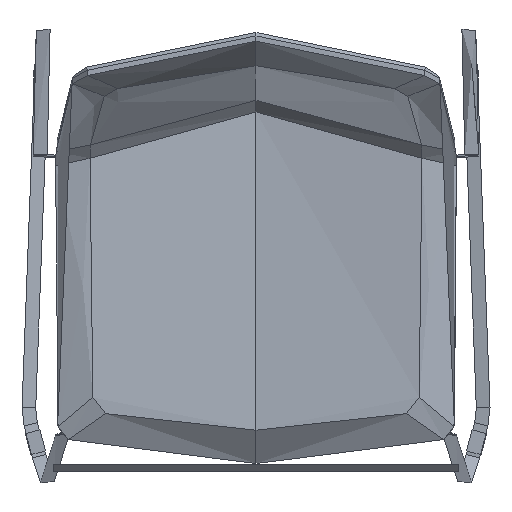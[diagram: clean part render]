
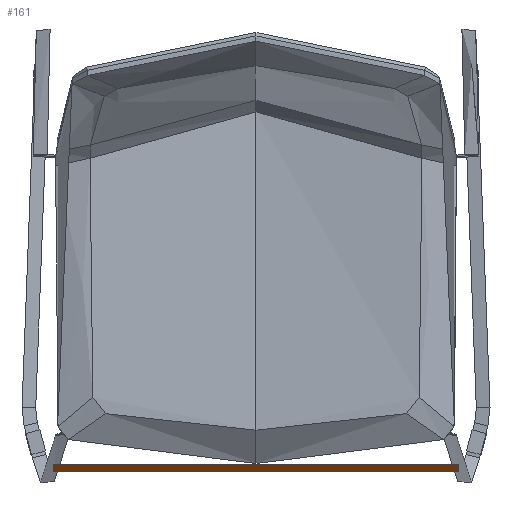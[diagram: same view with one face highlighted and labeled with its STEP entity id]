
A CAD part, top view. The second image highlights one B-rep face of the part: STEP entity #161.
In plain terms, the highlighted free-form (B-spline) face has degree [2, 1] with [5, 2] control points.
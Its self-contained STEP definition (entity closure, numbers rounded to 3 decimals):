
#161=ADVANCED_FACE('',(#317),#2203,.T.);
#317=FACE_OUTER_BOUND('',#473,.T.);
#473=EDGE_LOOP('',(#945,#946,#947,#948,#949,#950));
#945=ORIENTED_EDGE('',*,*,#1426,.T.);
#946=ORIENTED_EDGE('',*,*,#1428,.T.);
#947=ORIENTED_EDGE('',*,*,#1423,.T.);
#948=ORIENTED_EDGE('',*,*,#1425,.F.);
#949=ORIENTED_EDGE('',*,*,#1422,.T.);
#950=ORIENTED_EDGE('',*,*,#1421,.T.);
#1421=EDGE_CURVE('',#2032,#2036,#1770,.T.);
#1422=EDGE_CURVE('',#2033,#2032,#1771,.T.);
#1423=EDGE_CURVE('',#2034,#2035,#1772,.T.);
#1425=EDGE_CURVE('',#2033,#2035,#1774,.T.);
#1426=EDGE_CURVE('',#2036,#2037,#1775,.T.);
#1428=EDGE_CURVE('',#2037,#2034,#1777,.T.);
#1770=(
BOUNDED_CURVE()
B_SPLINE_CURVE(2,(#15353,#15354,#15355),.UNSPECIFIED.,.F.,.F.)
B_SPLINE_CURVE_WITH_KNOTS((3,3),(0.,12.566),.UNSPECIFIED.)
CURVE()
GEOMETRIC_REPRESENTATION_ITEM()
RATIONAL_B_SPLINE_CURVE((1.,0.707,1.))
REPRESENTATION_ITEM('')
);
#1771=(
BOUNDED_CURVE()
B_SPLINE_CURVE(2,(#15356,#15357,#15358),.UNSPECIFIED.,.F.,.F.)
B_SPLINE_CURVE_WITH_KNOTS((3,3),(38.38,50.265),
 .UNSPECIFIED.)
CURVE()
GEOMETRIC_REPRESENTATION_ITEM()
RATIONAL_B_SPLINE_CURVE((1.,0.734,1.))
REPRESENTATION_ITEM('')
);
#1772=(
BOUNDED_CURVE()
B_SPLINE_CURVE(2,(#15359,#15360,#15361),.UNSPECIFIED.,.F.,.F.)
B_SPLINE_CURVE_WITH_KNOTS((3,3),(-50.265,-38.38),
 .UNSPECIFIED.)
CURVE()
GEOMETRIC_REPRESENTATION_ITEM()
RATIONAL_B_SPLINE_CURVE((1.,0.734,1.))
REPRESENTATION_ITEM('')
);
#1774=(
BOUNDED_CURVE()
B_SPLINE_CURVE(1,(#15369,#15370),.UNSPECIFIED.,.F.,.F.)
B_SPLINE_CURVE_WITH_KNOTS((2,2),(0.,462.695),
 .UNSPECIFIED.)
CURVE()
GEOMETRIC_REPRESENTATION_ITEM()
RATIONAL_B_SPLINE_CURVE((1.,1.))
REPRESENTATION_ITEM('')
);
#1775=(
BOUNDED_CURVE()
B_SPLINE_CURVE(1,(#15371,#15372),.UNSPECIFIED.,.F.,.F.)
B_SPLINE_CURVE_WITH_KNOTS((2,2),(0.,462.695),
 .UNSPECIFIED.)
CURVE()
GEOMETRIC_REPRESENTATION_ITEM()
RATIONAL_B_SPLINE_CURVE((1.,1.))
REPRESENTATION_ITEM('')
);
#1777=(
BOUNDED_CURVE()
B_SPLINE_CURVE(2,(#15380,#15381,#15382),.UNSPECIFIED.,.F.,.F.)
B_SPLINE_CURVE_WITH_KNOTS((3,3),(-12.566,0.),.UNSPECIFIED.)
CURVE()
GEOMETRIC_REPRESENTATION_ITEM()
RATIONAL_B_SPLINE_CURVE((1.,0.707,1.))
REPRESENTATION_ITEM('')
);
#2032=VERTEX_POINT('',#15347);
#2033=VERTEX_POINT('',#15348);
#2034=VERTEX_POINT('',#15349);
#2035=VERTEX_POINT('',#15350);
#2036=VERTEX_POINT('',#15351);
#2037=VERTEX_POINT('',#15352);
#2203=(
BOUNDED_SURFACE()
B_SPLINE_SURFACE(2,1,((#15323,#15324),(#15325,#15326),(#15327,#15328),(#15329,
#15330),(#15331,#15332)),.UNSPECIFIED.,.F.,.F.,.F.)
B_SPLINE_SURFACE_WITH_KNOTS((3,2,3),(2,2),(0.,11.886,24.452),
(0.,462.695),.UNSPECIFIED.)
GEOMETRIC_REPRESENTATION_ITEM()
RATIONAL_B_SPLINE_SURFACE(((0.97,0.97),(0.723,
0.723),(1.,1.),(0.707,0.707),(1.,1.)))
REPRESENTATION_ITEM('')
SURFACE()
);
#15323=CARTESIAN_POINT('',(231.348,-214.405,302.024));
#15324=CARTESIAN_POINT('',(-231.348,-214.405,302.024));
#15325=CARTESIAN_POINT('',(231.348,-221.784,302.599));
#15326=CARTESIAN_POINT('',(-231.348,-221.784,302.599));
#15327=CARTESIAN_POINT('',(231.348,-221.784,310.));
#15328=CARTESIAN_POINT('',(-231.348,-221.784,310.));
#15329=CARTESIAN_POINT('',(231.348,-221.784,318.));
#15330=CARTESIAN_POINT('',(-231.348,-221.784,318.));
#15331=CARTESIAN_POINT('',(231.348,-213.784,318.));
#15332=CARTESIAN_POINT('',(-231.348,-213.784,318.));
#15347=CARTESIAN_POINT('',(231.348,-221.784,310.));
#15348=CARTESIAN_POINT('',(231.348,-214.405,302.024));
#15349=CARTESIAN_POINT('',(-231.348,-221.784,310.));
#15350=CARTESIAN_POINT('',(-231.348,-214.405,302.024));
#15351=CARTESIAN_POINT('',(231.348,-213.784,318.));
#15352=CARTESIAN_POINT('',(-231.348,-213.784,318.));
#15353=CARTESIAN_POINT('',(231.348,-221.784,310.));
#15354=CARTESIAN_POINT('',(231.348,-221.784,318.));
#15355=CARTESIAN_POINT('',(231.348,-213.784,318.));
#15356=CARTESIAN_POINT('',(231.348,-214.405,302.024));
#15357=CARTESIAN_POINT('',(231.348,-221.784,302.599));
#15358=CARTESIAN_POINT('',(231.348,-221.784,310.));
#15359=CARTESIAN_POINT('',(-231.348,-221.784,310.));
#15360=CARTESIAN_POINT('',(-231.348,-221.784,302.599));
#15361=CARTESIAN_POINT('',(-231.348,-214.405,302.024));
#15369=CARTESIAN_POINT('',(231.348,-214.405,302.024));
#15370=CARTESIAN_POINT('',(-231.348,-214.405,302.024));
#15371=CARTESIAN_POINT('',(231.348,-213.784,318.));
#15372=CARTESIAN_POINT('',(-231.348,-213.784,318.));
#15380=CARTESIAN_POINT('',(-231.348,-213.784,318.));
#15381=CARTESIAN_POINT('',(-231.348,-221.784,318.));
#15382=CARTESIAN_POINT('',(-231.348,-221.784,310.));
